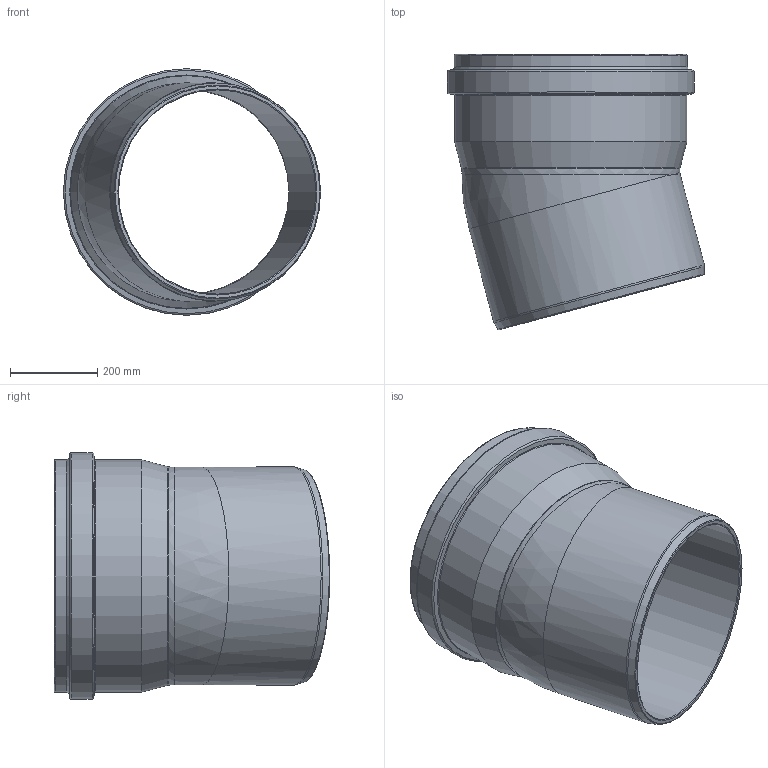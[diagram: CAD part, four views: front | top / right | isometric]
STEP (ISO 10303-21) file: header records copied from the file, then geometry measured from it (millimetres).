
FILE_DESCRIPTION(/* description */ (''),/* implementation_level */ '2;1');
FILE_NAME(/* name */ '771100z.stp',/* time_stamp */ '2025-08-26T11:54:46+02:00',/* author */ ('corinna'),/* organization */ (''),/* preprocessor_version */ 'ST-DEVELOPER v20',/* originating_system */ 'Autodesk Inventor 2024',/* authorisation */ '');
FILE_SCHEMA (('AUTOMOTIVE_DESIGN { 1 0 10303 214 3 1 1 }'));
Length unit declared in the file: millimetre
Products named in the file (1): 771100z
Bounding box: 589.7 x 631.28 x 565.5 mm (x, y, z)
Volume: 14449173.4 mm3; surface area: 1937403 mm2
Topology: 1 solids, 1 shells, 45 faces, 123 edges, 79 vertices
Faces by surface type: torus 18, cylinder 11, cone 10, bspline 3, plane 3
Full cylindrical faces by diameter (mm): 468.5 x2, 500.5 x2, 503 x1, 503.5 x2, 533 x1, 533.5 x1, 535.5 x1, 565.5 x1
Entity records: 1620 total; most frequent: CARTESIAN_POINT 361, DIRECTION 303, ORIENTED_EDGE 242, AXIS2_PLACEMENT_3D 141, EDGE_CURVE 121, CIRCLE 94, VERTEX_POINT 79, EDGE_LOOP 48
